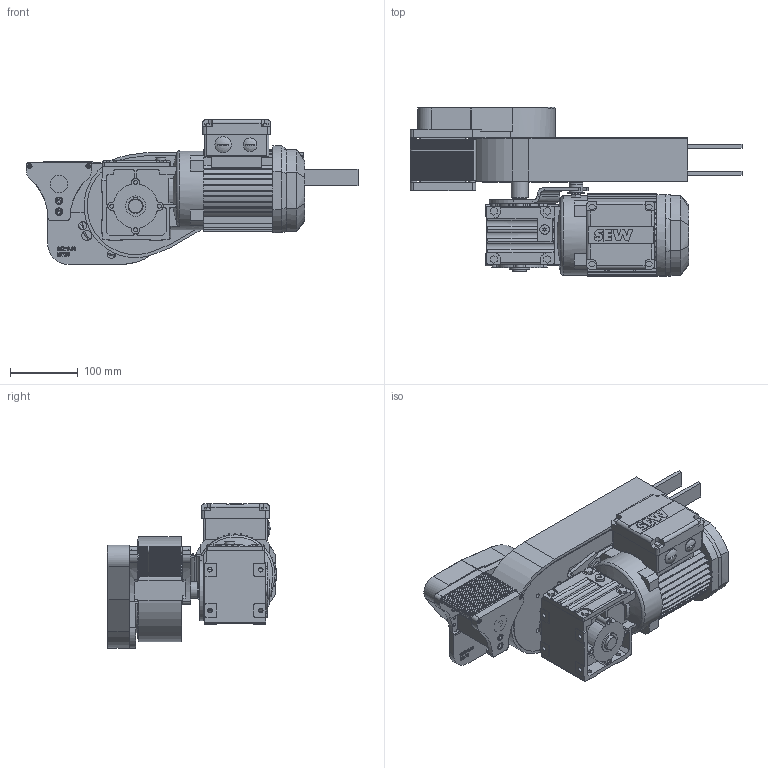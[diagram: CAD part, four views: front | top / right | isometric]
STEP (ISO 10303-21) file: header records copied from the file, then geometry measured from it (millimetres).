
FILE_DESCRIPTION(/* description */ (''),/* implementation_level */ '2;1');
FILE_NAME(/* name */ 'C:\CAD-MAG-2021\Technik\20_MAG-Konstruktion\01_FT - Fördertechnik\58000\57704-LD..stp',/* time_stamp */ '2024-09-25T13:50:28+02:00',/* author */ ('dwt0'),/* organization */ ('MAG'),/* preprocessor_version */ 'ST-DEVELOPER v18.1',/* originating_system */ 'Autodesk Inventor 2021',/* authorisation */ '');
FILE_SCHEMA (('CONFIG_CONTROL_DESIGN'));
Length unit declared in the file: millimetre
Products named in the file (1): 57704-LD
Bounding box: 489.56 x 249.8 x 213.31 mm (x, y, z)
Volume: 6566544.4 mm3; surface area: 686517.4 mm2
Topology: 13 solids, 67 shells, 3296 faces, 9114 edges, 6002 vertices
Faces by surface type: plane 1585, cylinder 1169, bspline 321, cone 130, torus 73, sphere 18
Full cylindrical faces by diameter (mm): 2 x2, 2.459 x4, 3 x4, 3.2 x4, 3.242 x6, 4 x16, 4.1 x2, 4.3 x1, 4.917 x4, 5 x8, 5.5 x4, 6 x19, 6.2 x1, 6.4 x1, 6.5 x8, 6.6 x16, 6.647 x11, 8 x7, 8.1 x1, 9 x7, 10 x11, 11 x5, 11.63 x1, 12 x13, 12.1 x1, 12.5 x1, 13 x6, 14 x3, 15 x6, 15.216 x4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
Entity records: 114004 total; most frequent: CARTESIAN_POINT 26295, ORIENTED_EDGE 18132, DIRECTION 17004, EDGE_CURVE 9067, VERTEX_POINT 6050, AXIS2_PLACEMENT_3D 5905, LINE 5194, VECTOR 5194
